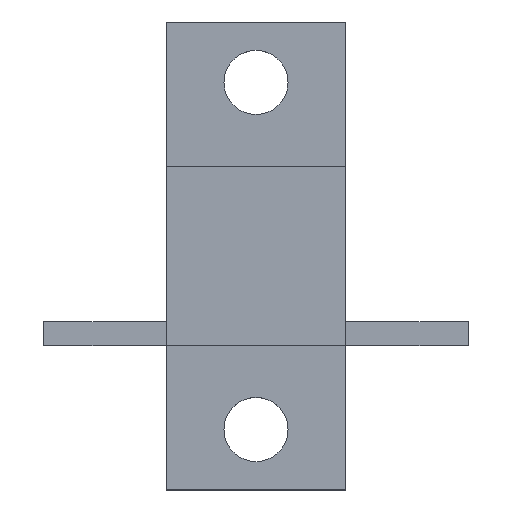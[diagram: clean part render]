
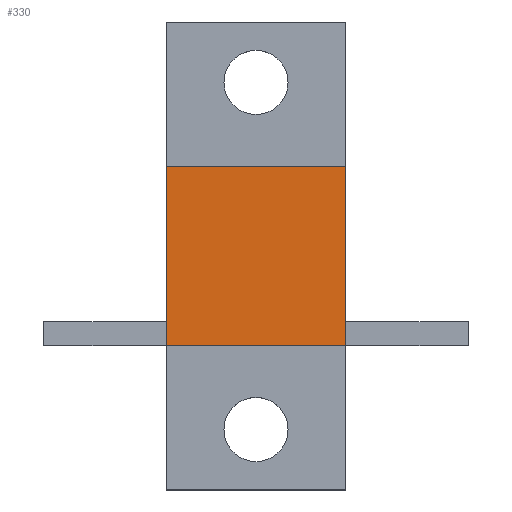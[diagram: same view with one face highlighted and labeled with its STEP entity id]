
A CAD part, top view. The second image highlights one B-rep face of the part: STEP entity #330.
In plain terms, the highlighted planar face has unit normal (0, 0, 1).
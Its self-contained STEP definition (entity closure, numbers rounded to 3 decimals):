
#330=ADVANCED_FACE('',(#554),#556,.T.);
#554=FACE_BOUND('',#555,.T.);
#555=EDGE_LOOP('',(#696,#697,#698,#699));
#556=PLANE('',#557);
#557=AXIS2_PLACEMENT_3D('',#558,#559,#560);
#558=CARTESIAN_POINT('',(0.,0.,5.));
#559=DIRECTION('',(0.,0.,1.));
#560=DIRECTION('',(-1.,0.,0.));
#696=ORIENTED_EDGE('',*,*,#758,.T.);
#697=ORIENTED_EDGE('',*,*,#762,.T.);
#698=ORIENTED_EDGE('',*,*,#765,.T.);
#699=ORIENTED_EDGE('',*,*,#767,.T.);
#758=EDGE_CURVE('',#859,#857,#860,.T.);
#762=EDGE_CURVE('',#857,#864,#866,.T.);
#765=EDGE_CURVE('',#864,#869,#871,.T.);
#767=EDGE_CURVE('',#869,#859,#873,.T.);
#857=VERTEX_POINT('',#1073);
#859=VERTEX_POINT('',#1077);
#860=LINE('',#1078,#1079);
#864=VERTEX_POINT('',#1087);
#866=B_SPLINE_CURVE_WITH_KNOTS('',1,
(#1091,#1092),
.UNSPECIFIED.,.F.,.F.,
(2,2),
(0.,1.),
.UNSPECIFIED.);
#869=VERTEX_POINT('',#1097);
#871=LINE('',#1101,#1102);
#873=B_SPLINE_CURVE_WITH_KNOTS('',1,
(#1106,#1107),
.UNSPECIFIED.,.F.,.F.,
(2,2),
(0.,1.),
.UNSPECIFIED.);
#1073=CARTESIAN_POINT('',(4.75,-4.75,5.));
#1077=CARTESIAN_POINT('',(-4.75,-4.75,5.));
#1078=CARTESIAN_POINT('',(-4.75,-4.75,5.));
#1079=VECTOR('',#1080,1.);
#1080=DIRECTION('',(1.,0.,0.));
#1087=CARTESIAN_POINT('',(4.75,4.75,5.));
#1091=CARTESIAN_POINT('',(4.75,-4.75,5.));
#1092=CARTESIAN_POINT('',(4.75,4.75,5.));
#1097=CARTESIAN_POINT('',(-4.75,4.75,5.));
#1101=CARTESIAN_POINT('',(4.75,4.75,5.));
#1102=VECTOR('',#1103,1.);
#1103=DIRECTION('',(-1.,0.,0.));
#1106=CARTESIAN_POINT('',(-4.75,4.75,5.));
#1107=CARTESIAN_POINT('',(-4.75,-4.75,5.));
